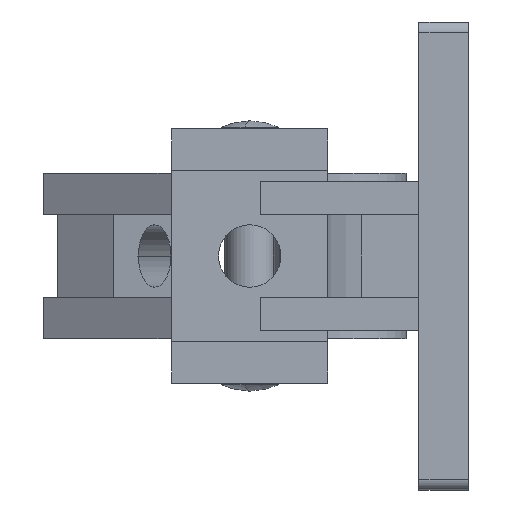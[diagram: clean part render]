
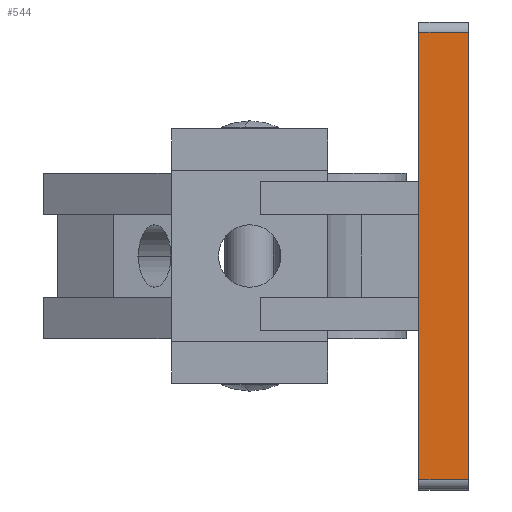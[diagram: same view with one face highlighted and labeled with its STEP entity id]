
A CAD part, left-side view. The second image highlights one B-rep face of the part: STEP entity #544.
In plain terms, the highlighted planar face has unit normal (-1, 0, 0) as drawn and (0, 0, -1) by its records, which use the part's own axes.
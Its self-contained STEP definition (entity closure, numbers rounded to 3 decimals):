
#544 = ADVANCED_FACE ( 'NONE', ( #4004 ), #4005, .F. ) ;
#2011 = LINE ( 'NONE', #2012, #4472 ) ;
#2012 = CARTESIAN_POINT ( 'NONE',  ( 43., 9.525, -19. ) ) ;
#2022 = DIRECTION ( 'NONE',  ( -1., 0., 0. ) ) ;
#2048 = CARTESIAN_POINT ( 'NONE',  ( 43., 0., -19. ) ) ;
#2052 = LINE ( 'NONE', #2048, #4417 ) ;
#2057 = DIRECTION ( 'NONE',  ( -1., 0., 0. ) ) ;
#2081 = LINE ( 'NONE', #2082, #4378 ) ;
#2082 = CARTESIAN_POINT ( 'NONE',  ( -43., 9.525, -19. ) ) ;
#2083 = DIRECTION ( 'NONE',  ( 0., -1., 0. ) ) ;
#2099 = LINE ( 'NONE', #2100, #4332 ) ;
#2100 = CARTESIAN_POINT ( 'NONE',  ( 43., 9.525, -19. ) ) ;
#2101 = DIRECTION ( 'NONE',  ( 0., -1., 0. ) ) ;
#2288 = EDGE_LOOP ( 'NONE', ( #3341, #3340, #3339, #3338 ) ) ;
#2920 = VERTEX_POINT ( 'NONE', #5402 ) ;
#2929 = VERTEX_POINT ( 'NONE', #5411 ) ;
#2934 = VERTEX_POINT ( 'NONE', #5416 ) ;
#3338 = ORIENTED_EDGE ( 'NONE', *, *, #5864, .T. ) ;
#3339 = ORIENTED_EDGE ( 'NONE', *, *, #5837, .F. ) ;
#3340 = ORIENTED_EDGE ( 'NONE', *, *, #5858, .F. ) ;
#3341 = ORIENTED_EDGE ( 'NONE', *, *, #5849, .T. ) ;
#3996 = CARTESIAN_POINT ( 'NONE',  ( 43., 9.525, -19. ) ) ;
#4004 = FACE_OUTER_BOUND ( 'NONE', #2288, .T. ) ;
#4005 = PLANE ( 'NONE',  #5048 ) ;
#4007 = DIRECTION ( 'NONE',  ( 0., 0., 1. ) ) ;
#4008 = DIRECTION ( 'NONE',  ( 1., 0., 0. ) ) ;
#4332 = VECTOR ( 'NONE', #2101, 1000. ) ;
#4378 = VECTOR ( 'NONE', #2083, 1000. ) ;
#4417 = VECTOR ( 'NONE', #2057, 1000. ) ;
#4472 = VECTOR ( 'NONE', #2022, 1000. ) ;
#4594 = VERTEX_POINT ( 'NONE', #5560 ) ;
#5048 = AXIS2_PLACEMENT_3D ( 'NONE', #3996, #4007, #4008 ) ;
#5402 = CARTESIAN_POINT ( 'NONE',  ( -43., 9.525, -19. ) ) ;
#5411 = CARTESIAN_POINT ( 'NONE',  ( 43., 9.525, -19. ) ) ;
#5416 = CARTESIAN_POINT ( 'NONE',  ( -43., 0., -19. ) ) ;
#5560 = CARTESIAN_POINT ( 'NONE',  ( 43., 0., -19. ) ) ;
#5837 = EDGE_CURVE ( 'NONE', #2929, #2920, #2011, .T. ) ;
#5849 = EDGE_CURVE ( 'NONE', #4594, #2934, #2052, .T. ) ;
#5858 = EDGE_CURVE ( 'NONE', #2920, #2934, #2081, .T. ) ;
#5864 = EDGE_CURVE ( 'NONE', #2929, #4594, #2099, .T. ) ;
